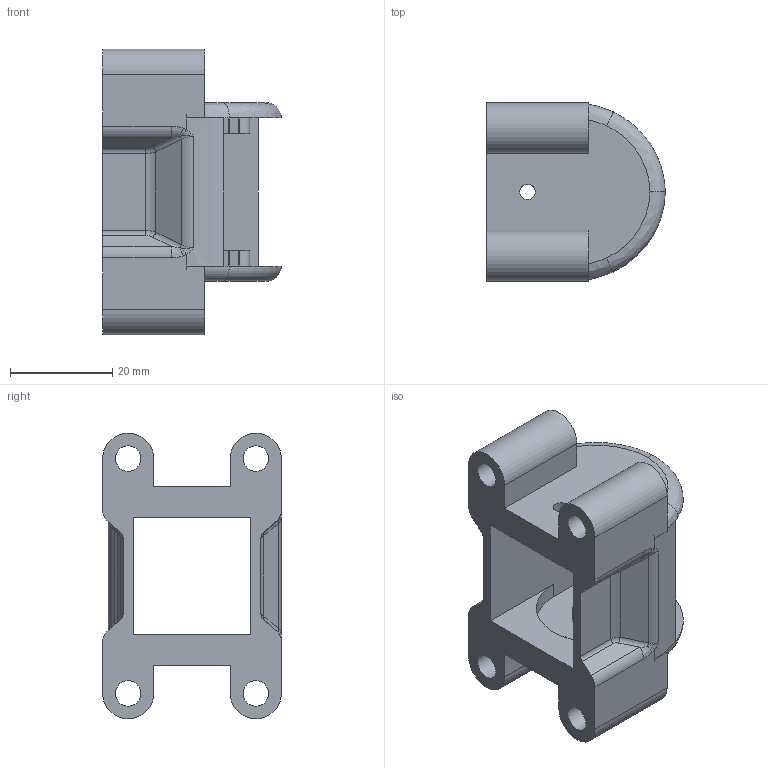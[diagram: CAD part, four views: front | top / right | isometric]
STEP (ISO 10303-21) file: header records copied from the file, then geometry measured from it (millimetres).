
FILE_DESCRIPTION((''),'2;1');
FILE_NAME('E:\Uebbing\temp\PFR 121\PFR 121 Stirnflanschanschluss02.stp','2010-08-16T10:58:15',('UebbingXP'),(''),'Autodesk Inventor 10','Autodesk Inventor 10','');
FILE_SCHEMA(('AUTOMOTIVE_DESIGN { 1 0 10303 214 1 1 1 1 }'));
Length unit declared in the file: millimetre
Products named in the file (1): PFR 121 Stirnflanschanschluss02
Bounding box: 35 x 35 x 56 mm (x, y, z)
Volume: 19039.2 mm3; surface area: 11745.1 mm2
Topology: 1 solids, 1 shells, 131 faces, 346 edges, 214 vertices
Faces by surface type: bspline 69, plane 36, cylinder 22, torus 4
Full cylindrical faces by diameter (mm): 3 x1, 5 x2
Entity records: 5741 total; most frequent: CARTESIAN_POINT 2720, ORIENTED_EDGE 668, DIRECTION 536, EDGE_CURVE 334, VERTEX_POINT 212, VECTOR 190, LINE 190, AXIS2_PLACEMENT_3D 173
